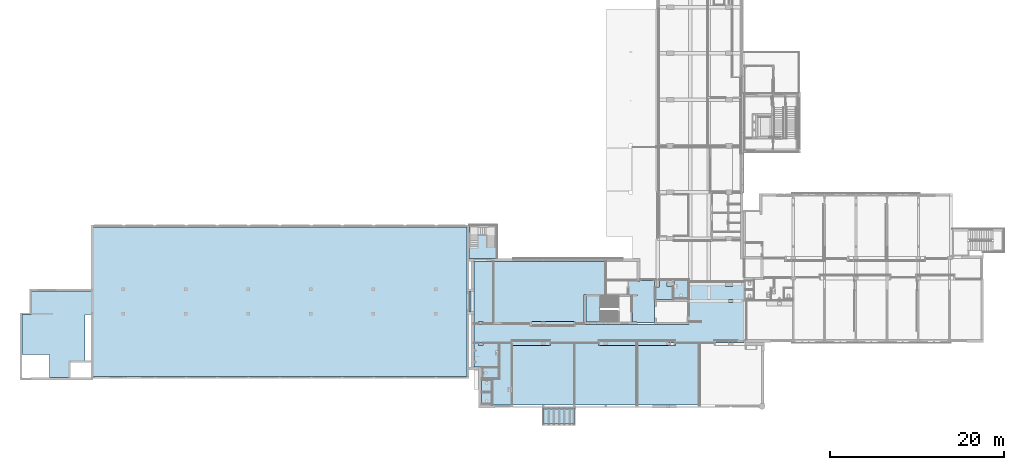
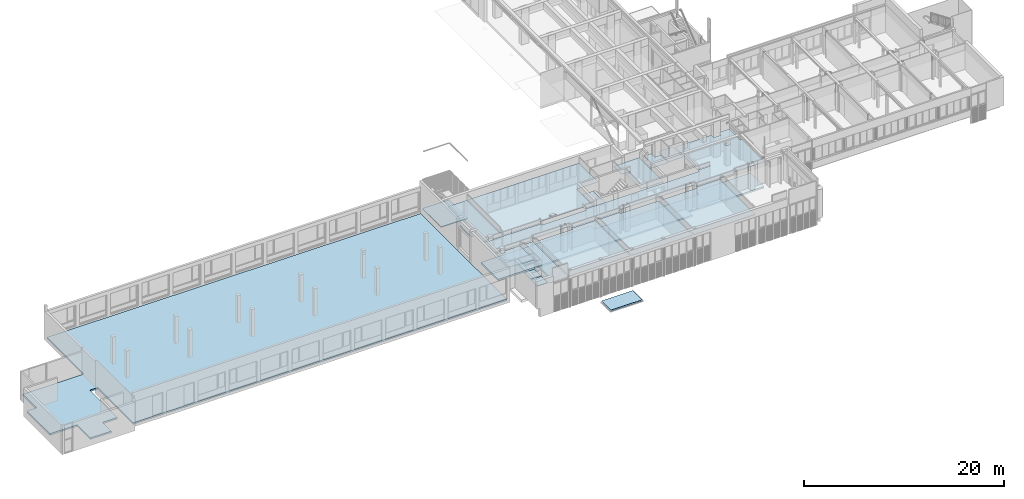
# One storey, part 31 of 117: 20 slabs.
"""IFC2X3 building model written with IfcOpenShell, lengths in millimetres."""

from ifc_helpers import new_model, entity, si_unit, converted_unit, derived_unit, money_unit, direction, frame, origin_with_axes, place, context, subcontext, project, spatial, faceted_brep, material, type_object, element, save


model = new_model("IFC2X3")

# Units and contexts
model_context = context("Model", 3, precision=0.01, world=origin_with_axes(), true_north=direction((0.0, 1.0)))
body_context = subcontext(model_context, "Body", "Model", "MODEL_VIEW")
ifc_project = project(units=[si_unit("LENGTHUNIT", "METRE", prefix="MILLI"), si_unit("AREAUNIT", "SQUARE_METRE"), si_unit("VOLUMEUNIT", "CUBIC_METRE"), converted_unit("PLANEANGLEUNIT", "DEGREE", entity("IfcPlaneAngleMeasure", 0.0174532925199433), si_unit("PLANEANGLEUNIT", "RADIAN"), dimensions=[0, 0, 0, 0, 0, 0, 0]), money_unit("EUR"), converted_unit("TIMEUNIT", "Year", entity("IfcTimeMeasure", 31557600.0), si_unit("TIMEUNIT", "SECOND"), dimensions=[0, 0, 1, 0, 0, 0, 0]), si_unit("MASSUNIT", "GRAM", prefix="KILO"), si_unit("THERMODYNAMICTEMPERATUREUNIT", "DEGREE_CELSIUS"), si_unit("LUMINOUSINTENSITYUNIT", "LUMEN"), si_unit("ENERGYUNIT", "JOULE", prefix="MEGA"), derived_unit("THERMALCONDUCTANCEUNIT", [(si_unit("POWERUNIT", "WATT"), 1), (si_unit("LENGTHUNIT", "METRE"), -1), (si_unit("THERMODYNAMICTEMPERATUREUNIT", "KELVIN"), -1)]), derived_unit("SPECIFICHEATCAPACITYUNIT", [(si_unit("ENERGYUNIT", "JOULE"), 1), (si_unit("MASSUNIT", "GRAM", prefix="KILO"), -1), (si_unit("THERMODYNAMICTEMPERATUREUNIT", "KELVIN"), -1)]), derived_unit("MASSDENSITYUNIT", [(si_unit("MASSUNIT", "GRAM", prefix="KILO"), 1), (si_unit("VOLUMEUNIT", "CUBIC_METRE"), -1)])], contexts=[model_context])

# Site, building, storey
site_placement = place(None, origin_with_axes())
site = spatial("IfcSite", under=ifc_project, at=site_placement, Name="Site", CompositionType="ELEMENT")
building_placement = place(site_placement, origin_with_axes())
building = spatial("IfcBuilding", under=site, at=building_placement, Name="Naam gebouw", CompositionType="ELEMENT")
storey_placement = place(building_placement, frame((0.0, 0.0, 4150.0), z_axis=(0.0, 0.0, 1.0), x_axis=(1.0, 0.0, 0.0)))
storey = spatial("IfcBuildingStorey", under=building, at=storey_placement, Name="1e verdieping N", CompositionType="ELEMENT", Elevation=4150.0)

# Slabs
ifc_material_1 = material(Name="ALG - CONSTRUCTIEF VLOER")
slab_type_1 = type_object("IfcSlabType", Name="ALG Vloer 200", PredefinedType="NOTDEFINED")
slab_1_placement = place(storey_placement, frame((12155.50051848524, 12994.60803964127, 1750.0), z_axis=(0.0, 0.0, 1.0), x_axis=(1.0, 0.0, 0.0)))
element("IfcSlab", 1, at=slab_1_placement, inside=storey, type_object=slab_type_1, material=ifc_material_1, Name="_Vloer-x", PredefinedType="NOTDEFINED", context=body_context, shape_type="Brep", body=[
    faceted_brep([(0.0, 0.0, 0.0), (0.0, 0.0, -200.0000000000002), (1643.100000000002, 0.0, -200.0000000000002), (1643.100000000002, 0.0, 0.0), (0.0, 3001.31222034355, 0.0), (0.0, 3001.31222034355, -200.0000000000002), (1514.999999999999, 3001.31222034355, -200.0000000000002), (1514.999999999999, 1280.000000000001, -200.0000000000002), (1643.100000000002, 1280.000000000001, -200.0000000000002), (1643.100000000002, 1280.000000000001, 0.0), (1514.999999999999, 1280.000000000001, 0.0), (1514.999999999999, 3001.31222034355, 0.0)], [[[0, 1, 2, 3]], [[4, 5, 1, 0]], [[2, 1, 5, 6, 7, 8]], [[3, 2, 8, 9]], [[4, 0, 3, 9, 10, 11]], [[11, 6, 5, 4]], [[10, 7, 6, 11]], [[9, 8, 7, 10]]]),
])
slab_2_placement = place(storey_placement, frame((-44649.99999999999, 6765.575024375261, -479.9999999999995), z_axis=(0.0, 0.0, 1.0), x_axis=(1.0, 0.0, 0.0)))
element("IfcSlab", 2, at=slab_2_placement, inside=storey, type_object=slab_type_1, material=ifc_material_1, Name="_Vloer-x", PredefinedType="NOTDEFINED", context=body_context, shape_type="Brep", body=[
    faceted_brep([(0.0, 0.0, 0.0), (0.0, 0.0, -200.0000000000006), (43050.00000002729, 0.01660980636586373, -200.0000000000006), (43050.00000002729, 0.01660980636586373, 0.0), (0.0, 7100.000000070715, 0.0), (0.0, 7100.000000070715, -200.0000000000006), (-899.9999999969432, 7099.999999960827, -200.0000000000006), (-899.9999991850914, 1599.930119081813, -200.0000000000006), (-2599.999999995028, 1599.93011899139, -200.0000000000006), (-2599.999999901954, -149.9999999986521, -200.0000000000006), (-5013.736795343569, -150.0000000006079, -200.0000000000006), (-5013.736795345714, 2500.00000000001, -200.0000000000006), (-8149.999999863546, 2499.999999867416, -200.0000000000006), (-8150.000000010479, 7099.999999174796, -200.0000000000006), (-7049.999999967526, 7099.999999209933, -200.0000000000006), (-7050.000000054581, 9824.999999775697, -200.0000000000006), (-8.624567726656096e-08, 9825.00000000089, -200.0000000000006), (-1.513171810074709e-07, 17199.99999999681, -200.0000000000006), (43050.00000002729, 17199.99999999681, -200.0000000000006), (43050.00000002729, 17199.99999999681, 0.0), (-1.513171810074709e-07, 17199.99999999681, 0.0), (-8.624567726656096e-08, 9825.00000000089, 0.0), (-7050.000000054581, 9824.999999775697, 0.0), (-7049.999999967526, 7099.999999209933, 0.0), (-8150.000000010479, 7099.999999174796, 0.0), (-8149.999999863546, 2499.999999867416, 0.0), (-5013.736795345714, 2500.00000000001, 0.0), (-5013.736795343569, -150.0000000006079, 0.0), (-2599.999999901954, -149.9999999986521, 0.0), (-2599.999999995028, 1599.93011899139, 0.0), (-899.9999991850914, 1599.930119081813, 0.0), (-899.9999999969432, 7099.999999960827, 0.0)], [[[0, 1, 2, 3]], [[4, 5, 1, 0]], [[2, 1, 5, 6, 7, 8, 9, 10, 11, 12, 13, 14, 15, 16, 17, 18]], [[3, 2, 18, 19]], [[4, 0, 3, 19, 20, 21, 22, 23, 24, 25, 26, 27, 28, 29, 30, 31]], [[31, 6, 5, 4]], [[30, 7, 6, 31]], [[29, 8, 7, 30]], [[28, 9, 8, 29]], [[27, 10, 9, 28]], [[26, 11, 10, 27]], [[25, 12, 11, 26]], [[24, 13, 12, 25]], [[23, 14, 13, 24]], [[22, 15, 14, 23]], [[21, 16, 15, 22]], [[20, 17, 16, 21]], [[19, 18, 17, 20]]]),
])
slab_type_2 = type_object("IfcSlabType", Name="ALG - CONSTRUCTIEF VLOER 200", PredefinedType="NOTDEFINED")
slab_3_placement = place(storey_placement, frame((-770.0388143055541, 9945.912425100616, -299.9999999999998), z_axis=(0.0, 0.0, 1.0), x_axis=(1.0, 0.0, 0.0)))
element("IfcSlab", 3, at=slab_3_placement, inside=storey, type_object=slab_type_2, material=ifc_material_1, Name="_Vloer-x", PredefinedType="NOTDEFINED", context=body_context, shape_type="Brep", body=[
    faceted_brep([(0.0, 0.0, 0.0), (0.0, 0.0, -200.0000000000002), (22390.03881430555, 0.0, -200.0000000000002), (22390.03881430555, 0.0, 0.0), (0.0, 3450.000000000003, 0.0), (0.0, 3450.000000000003, -200.0000000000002), (12675.53933279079, 3450.000000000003, -200.0000000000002), (12675.53933279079, 2798.695614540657, -200.0000000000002), (24773.03881430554, 2798.695614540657, -200.0000000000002), (24773.03881430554, 3450.000000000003, -200.0000000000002), (31077.03881430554, 3450.000000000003, -200.0000000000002), (31077.03881430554, 714.9999999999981, -200.0000000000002), (22390.03881430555, 714.9999999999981, -200.0000000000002), (22390.03881430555, 714.9999999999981, 0.0), (31077.03881430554, 714.9999999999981, 0.0), (31077.03881430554, 3450.000000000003, 0.0), (24773.03881430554, 3450.000000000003, 0.0), (24773.03881430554, 2798.695614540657, 0.0), (12675.53933279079, 2798.695614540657, 0.0), (12675.53933279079, 3450.000000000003, 0.0)], [[[0, 1, 2, 3]], [[4, 5, 1, 0]], [[2, 1, 5, 6, 7, 8, 9, 10, 11, 12]], [[3, 2, 12, 13]], [[4, 0, 3, 13, 14, 15, 16, 17, 18, 19]], [[19, 6, 5, 4]], [[18, 7, 6, 19]], [[17, 8, 7, 18]], [[16, 9, 8, 17]], [[15, 10, 9, 16]], [[14, 11, 10, 15]], [[13, 12, 11, 14]]]),
])
ifc_material_2 = material(Name="ALG - BINNENAFWERKING")
slab_type_3 = type_object("IfcSlabType", Name="ALG - BINNENAFWERKING 40", PredefinedType="NOTDEFINED")
slab_4_placement = place(storey_placement, frame((-770.0761052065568, 10650.91242510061, 2450.0), z_axis=(0.0, 0.0, 1.0), x_axis=(1.0, 0.0, 0.0)))
element("IfcSlab", 4, at=slab_4_placement, inside=storey, type_object=slab_type_3, material=ifc_material_2, Name="_Vloer-x", PredefinedType="NOTDEFINED", context=body_context, shape_type="Brep", body=[
    faceted_brep([(14900.07610520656, 2090.000000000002, 0.0), (15440.07610520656, 2090.000000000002, 0.0), (15440.07610520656, 2093.695614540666, 0.0), (24773.07610520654, 2093.695614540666, 0.0), (24773.07610520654, 2350.000000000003, 0.0), (26196.62402900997, 2350.000000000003, 0.0), (26196.62402900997, 2450.000000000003, 0.0), (24773.07610520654, 2450.000000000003, 0.0), (24773.07610520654, 6965.000000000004, 0.0), (28976.07610520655, 6965.000000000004, 0.0), (28976.07610520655, 6465.000000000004, 0.0), (29776.07610520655, 6465.000000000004, 0.0), (29776.07610520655, 6965.000000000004, 0.0), (31077.07610520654, 6965.000000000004, 0.0), (31077.07610520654, 4790.000000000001, 0.0), (31327.07610520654, 4790.000000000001, 0.0), (31327.07610520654, 339.9999999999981, 0.0), (31077.07610520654, 339.9999999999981, 0.0), (31077.07610520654, 255.0000000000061, 0.0), (27670.07610520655, 255.0000000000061, 0.0), (27670.07610520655, 4.999999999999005, 0.0), (23185.07610520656, 4.999999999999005, 0.0), (23185.07610520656, 254.999999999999, 0.0), (14355.07610520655, 255.0000000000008, 0.0), (14355.07610520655, 4.999999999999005, 0.0), (8785.07610520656, 4.999999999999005, 0.0), (8785.07610520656, 254.999999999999, 0.0), (4320.076105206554, 254.999999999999, 0.0), (4320.076105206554, 0.0, 0.0), (1020.076105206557, 0.0, 0.0), (1020.076105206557, 22.49999999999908, 0.0), (520.0761052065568, 22.49999999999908, 0.0), (520.0761052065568, 0.0, 0.0), (0.0, 0.0, 0.0), (0.0, 2124.943932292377, 0.0), (520.0761052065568, 2124.943932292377, 0.0), (520.0761052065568, 2067.500000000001, 0.0), (1020.076105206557, 2067.500000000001, 0.0), (1020.076105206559, 2124.943932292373, 0.0), (6544.575586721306, 2124.943932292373, 0.0), (6544.575586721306, 1874.943932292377, 0.0), (11620.07610520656, 1874.943932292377, 0.0), (11620.07610520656, 2124.943932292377, 0.0), (12675.57662369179, 2124.943932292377, 0.0), (12675.57662369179, 2093.695614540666, 0.0), (14900.07610520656, 2093.695614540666, 0.0), (29320.07610520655, 4957.500000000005, 0.0), (29320.07610520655, 4602.500000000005, 0.0), (29820.07610520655, 4602.500000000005, 0.0), (29820.07610520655, 4957.500000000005, 0.0), (14900.07610520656, 2090.000000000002, 40.00000000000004), (15440.07610520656, 2090.000000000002, 40.00000000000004), (15440.07610520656, 2093.695614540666, 40.00000000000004), (24773.07610520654, 2093.695614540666, 40.00000000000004), (24773.07610520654, 2350.000000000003, 40.00000000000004), (26196.62402900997, 2350.000000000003, 40.00000000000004), (26196.62402900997, 2450.000000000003, 40.00000000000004), (24773.07610520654, 2450.000000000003, 40.00000000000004), (24773.07610520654, 6965.000000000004, 40.00000000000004), (28976.07610520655, 6965.000000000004, 40.00000000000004), (28976.07610520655, 6465.000000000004, 40.00000000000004), (29776.07610520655, 6465.000000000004, 40.00000000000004), (29776.07610520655, 6965.000000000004, 40.00000000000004), (31077.07610520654, 6965.000000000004, 40.00000000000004), (31077.07610520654, 4790.000000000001, 40.00000000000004), (31327.07610520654, 4790.000000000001, 40.00000000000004), (31327.07610520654, 339.9999999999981, 40.00000000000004), (31077.07610520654, 339.9999999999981, 40.00000000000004), (31077.07610520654, 255.0000000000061, 40.00000000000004), (27670.07610520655, 255.0000000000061, 40.00000000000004), (27670.07610520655, 4.999999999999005, 40.00000000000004), (23185.07610520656, 4.999999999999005, 40.00000000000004), (23185.07610520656, 254.999999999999, 40.00000000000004), (14355.07610520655, 255.0000000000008, 40.00000000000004), (14355.07610520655, 4.999999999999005, 40.00000000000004), (8785.07610520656, 4.999999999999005, 40.00000000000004), (8785.07610520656, 254.999999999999, 40.00000000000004), (4320.076105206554, 254.999999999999, 40.00000000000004), (4320.076105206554, 0.0, 40.00000000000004), (1020.076105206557, 0.0, 40.00000000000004), (1020.076105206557, 22.49999999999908, 40.00000000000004), (520.0761052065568, 22.49999999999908, 40.00000000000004), (520.0761052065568, 0.0, 40.00000000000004), (0.0, 0.0, 40.00000000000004), (0.0, 2124.943932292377, 40.00000000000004), (520.0761052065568, 2124.943932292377, 40.00000000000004), (520.0761052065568, 2067.500000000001, 40.00000000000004), (1020.076105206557, 2067.500000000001, 40.00000000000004), (1020.076105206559, 2124.943932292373, 40.00000000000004), (6544.575586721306, 2124.943932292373, 40.00000000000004), (6544.575586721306, 1874.943932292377, 40.00000000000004), (11620.07610520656, 1874.943932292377, 40.00000000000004), (11620.07610520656, 2124.943932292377, 40.00000000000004), (12675.57662369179, 2124.943932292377, 40.00000000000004), (12675.57662369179, 2093.695614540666, 40.00000000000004), (14900.07610520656, 2093.695614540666, 40.00000000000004), (29320.07610520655, 4957.500000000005, 40.00000000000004), (29320.07610520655, 4602.500000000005, 40.00000000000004), (29820.07610520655, 4602.500000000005, 40.00000000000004), (29820.07610520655, 4957.500000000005, 40.00000000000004)], [[[0, 1, 2, 3, 4, 5, 6, 7, 8, 9, 10, 11, 12, 13, 14, 15, 16, 17, 18, 19, 20, 21, 22, 23, 24, 25, 26, 27, 28, 29, 30, 31, 32, 33, 34, 35, 36, 37, 38, 39, 40, 41, 42, 43, 44, 45], [46, 47, 48, 49]], [[0, 50, 51, 1]], [[1, 51, 52, 2]], [[3, 2, 52, 53]], [[3, 53, 54, 4]], [[4, 54, 55, 5]], [[5, 55, 56, 6]], [[6, 56, 57, 7]], [[7, 57, 58, 8]], [[9, 8, 58, 59]], [[60, 10, 9, 59]], [[10, 60, 61, 11]], [[11, 61, 62, 12]], [[12, 62, 63, 13]], [[13, 63, 64, 14]], [[14, 64, 65, 15]], [[15, 65, 66, 16]], [[16, 66, 67, 17]], [[17, 67, 68, 18]], [[18, 68, 69, 19]], [[19, 69, 70, 20]], [[20, 70, 71, 21]], [[21, 71, 72, 22]], [[22, 72, 73, 23]], [[23, 73, 74, 24]], [[24, 74, 75, 25]], [[25, 75, 76, 26]], [[26, 76, 77, 27]], [[27, 77, 78, 28]], [[28, 78, 79, 29]], [[29, 79, 80, 30]], [[30, 80, 81, 31]], [[31, 81, 82, 32]], [[32, 82, 83, 33]], [[33, 83, 84, 34]], [[34, 84, 85, 35]], [[35, 85, 86, 36]], [[36, 86, 87, 37]], [[37, 87, 88, 38]], [[38, 88, 89, 39]], [[39, 89, 90, 40]], [[40, 90, 91, 41]], [[41, 91, 92, 42]], [[42, 92, 93, 43]], [[43, 93, 94, 44]], [[94, 95, 45, 44]], [[0, 45, 95, 50]], [[46, 96, 97, 47]], [[47, 97, 98, 48]], [[48, 98, 99, 49]], [[49, 99, 96, 46]], [[51, 50, 95, 94, 93, 92, 91, 90, 89, 88, 87, 86, 85, 84, 83, 82, 81, 80, 79, 78, 77, 76, 75, 74, 73, 72, 71, 70, 69, 68, 67, 66, 65, 64, 63, 62, 61, 60, 59, 58, 57, 56, 55, 54, 53, 52], [98, 97, 96, 99]]]),
])
slab_5_placement = place(storey_placement, frame((1529.923894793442, 12875.85635739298, 2450.0), z_axis=(0.0, 0.0, 1.0), x_axis=(1.0, 0.0, 0.0)))
element("IfcSlab", 5, at=slab_5_placement, inside=storey, type_object=slab_type_3, material=ifc_material_2, Name="_Vloer-x", PredefinedType="NOTDEFINED", context=body_context, shape_type="Brep", body=[
    faceted_brep([(9320.076105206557, 225.0055161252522, 40.00000000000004), (9320.076105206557, 0.0, 40.00000000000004), (10375.57662369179, 0.0, 40.00000000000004), (10375.57662369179, 3320.063902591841, 40.00000000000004), (12820.07610520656, 3320.063902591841, 40.00000000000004), (12820.07610520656, 7119.959839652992, 40.00000000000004), (0.0, 7119.959839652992, 40.00000000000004), (0.0, 0.0, 40.00000000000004), (4244.575586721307, 0.0, 40.00000000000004), (4244.575586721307, 225.0055161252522, 40.00000000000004), (9320.076105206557, 225.0055161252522, 0.0), (9320.076105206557, 0.0, 0.0), (10375.57662369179, 0.0, 0.0), (10375.57662369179, 3320.063902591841, 0.0), (12820.07610520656, 3320.063902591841, 0.0), (12820.07610520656, 7119.959839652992, 0.0), (0.0, 7119.959839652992, 0.0), (0.0, 0.0, 0.0), (4244.575586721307, 0.0, 0.0), (4244.575586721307, 225.0055161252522, 0.0)], [[[0, 1, 2, 3, 4, 5, 6, 7, 8, 9]], [[10, 11, 1, 0]], [[11, 12, 2, 1]], [[3, 2, 12, 13]], [[4, 3, 13, 14]], [[5, 4, 14, 15]], [[6, 5, 15, 16]], [[7, 6, 16, 17]], [[8, 7, 17, 18]], [[9, 8, 18, 19]], [[0, 9, 19, 10]], [[13, 12, 11, 10, 19, 18, 17, 16, 15, 14]]]),
])
slab_6_placement = place(storey_placement, frame((10850.00400859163, 3445.733530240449, 2450.0), z_axis=(0.0, 0.0, 1.0), x_axis=(1.0, 0.0, 0.0)))
element("IfcSlab", 6, at=slab_6_placement, inside=storey, type_object=slab_type_3, material=ifc_material_2, Name="_Vloer-x", PredefinedType="NOTDEFINED", context=body_context, shape_type="Brep", body=[
    faceted_brep([(0.0, 0.0, 40.00000000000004), (0.0, 0.0, 0.0), (7074.995991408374, -0.06482253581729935, 0.0), (7074.995991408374, -0.06482253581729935, 40.00000000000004), (0.0, 7110.178894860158, 40.00000000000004), (0.0, 7110.178894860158, 0.0), (2734.995991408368, 7110.178894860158, 0.0), (2734.995991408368, 6885.178894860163, 0.0), (7074.995991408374, 6885.178894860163, 0.0), (7074.995991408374, 6885.178894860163, 40.00000000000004), (2734.995991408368, 6885.178894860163, 40.00000000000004), (2734.995991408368, 7110.178894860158, 40.00000000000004)], [[[0, 1, 2, 3]], [[4, 5, 1, 0]], [[2, 1, 5, 6, 7, 8]], [[3, 2, 8, 9]], [[4, 0, 3, 9, 10, 11]], [[11, 6, 5, 4]], [[10, 7, 6, 11]], [[9, 8, 7, 10]]]),
])
slab_7_placement = place(storey_placement, frame((18075.0, 3445.668707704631, 2450.0), z_axis=(0.0, 0.0, 1.0), x_axis=(1.0, 0.0, 0.0)))
element("IfcSlab", 7, at=slab_7_placement, inside=storey, type_object=slab_type_3, material=ifc_material_2, Name="_Vloer-x", PredefinedType="NOTDEFINED", context=body_context, shape_type="Brep", body=[
    faceted_brep([(0.0, 0.0, 40.00000000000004), (0.0, 0.0, 0.0), (7049.999999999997, 0.0, 0.0), (7049.999999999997, 0.0, 40.00000000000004), (0.0, 6885.243717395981, 40.00000000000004), (0.0, 6885.243717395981, 0.0), (4340.000000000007, 6885.243717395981, 0.0), (4340.000000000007, 7110.243717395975, 0.0), (7049.999999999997, 7110.243717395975, 0.0), (7049.999999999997, 7110.243717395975, 40.00000000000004), (4340.000000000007, 7110.243717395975, 40.00000000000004), (4340.000000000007, 6885.243717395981, 40.00000000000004)], [[[0, 1, 2, 3]], [[4, 5, 1, 0]], [[2, 1, 5, 6, 7, 8]], [[3, 2, 8, 9]], [[4, 0, 3, 9, 10, 11]], [[11, 6, 5, 4]], [[10, 7, 6, 11]], [[9, 8, 7, 10]]]),
])
slab_8_placement = place(storey_placement, frame((3649.999999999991, 3445.668707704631, 2450.0), z_axis=(0.0, 0.0, 1.0), x_axis=(1.0, 0.0, 0.0)))
element("IfcSlab", 8, at=slab_8_placement, inside=storey, type_object=slab_type_3, material=ifc_material_2, Name="_Vloer-x", PredefinedType="NOTDEFINED", context=body_context, shape_type="Brep", body=[
    faceted_brep([(7100.00400859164, 0.06479576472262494, 40.00000000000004), (0.0, 0.0, 40.00000000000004), (0.0, 0.0, 0.0), (7100.00400859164, 0.06479576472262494, 0.0), (4365.000000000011, 6885.243717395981, 40.00000000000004), (0.0, 6885.243717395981, 40.00000000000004), (7100.000000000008, 7110.243717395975, 40.00000000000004), (4365.000000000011, 7110.243717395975, 40.00000000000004), (0.0, 6885.243717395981, 0.0), (7100.000000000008, 7110.243717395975, 0.0), (4365.000000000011, 6885.243717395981, 0.0), (4365.000000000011, 7110.243717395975, 0.0)], [[[0, 1, 2, 3]], [[4, 5, 1, 0, 6, 7]], [[1, 5, 8, 2]], [[9, 3, 2, 8, 10, 11]], [[6, 0, 3, 9]], [[5, 4, 10, 8]], [[7, 6, 9, 11]], [[4, 7, 11, 10]]]),
])
slab_9_placement = place(storey_placement, frame((1300.000044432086, 6295.658971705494, 2400.0), z_axis=(0.0, 0.0, 1.0), x_axis=(1.0, 0.0, 0.0)))
element("IfcSlab", 9, at=slab_9_placement, inside=storey, type_object=slab_type_3, material=ifc_material_2, Name="_Vloer-x", PredefinedType="NOTDEFINED", context=body_context, shape_type="Brep", body=[
    faceted_brep([(0.0, 0.0, 39.99999999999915), (0.0, 0.0, 0.0), (-1199.999996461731, 0.0, 0.0), (-1199.999996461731, 0.0, 39.99999999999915), (0.0, -1300.878859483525, 39.99999999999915), (0.0, -1300.878859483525, 0.0), (-1199.999996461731, -1300.878859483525, 0.0), (-1199.999996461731, -1300.878859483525, 39.99999999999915)], [[[0, 1, 2, 3]], [[4, 5, 1, 0]], [[2, 1, 5, 6]], [[3, 2, 6, 7]], [[4, 0, 3, 7]], [[7, 6, 5, 4]]]),
])
slab_10_placement = place(storey_placement, frame((1300.000043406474, 4894.78011222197, 2400.0), z_axis=(0.0, 0.0, 1.0), x_axis=(1.0, 0.0, 0.0)))
element("IfcSlab", 10, at=slab_10_placement, inside=storey, type_object=slab_type_3, material=ifc_material_2, Name="_Vloer-x", PredefinedType="NOTDEFINED", context=body_context, shape_type="Brep", body=[
    faceted_brep([(0.0, 0.0, 39.99999999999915), (0.0, 0.0, 0.0), (-1199.999995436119, 0.0, 0.0), (-1199.999995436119, 0.0, 39.99999999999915), (0.0, -1299.111404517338, 39.99999999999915), (0.0, -1299.111404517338, 0.0), (-1199.999995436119, -1299.111404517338, 0.0), (-1199.999995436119, -1299.111404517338, 39.99999999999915)], [[[0, 1, 2, 3]], [[4, 5, 1, 0]], [[2, 1, 5, 6]], [[3, 2, 6, 7]], [[4, 0, 3, 7]], [[7, 6, 5, 4]]]),
])
slab_11_placement = place(storey_placement, frame((2099.999999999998, 7735.77984600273, 2400.0), z_axis=(0.0, 0.0, 1.0), x_axis=(1.0, 0.0, 0.0)))
element("IfcSlab", 11, at=slab_11_placement, inside=storey, type_object=slab_type_3, material=ifc_material_2, Name="_Vloer-x", PredefinedType="NOTDEFINED", context=body_context, shape_type="Brep", body=[
    faceted_brep([(0.0, 0.0, 39.99999999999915), (0.0, 0.0, 0.0), (-1849.999952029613, 0.0, 0.0), (-1849.999952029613, 0.0, 39.99999999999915), (0.0, -1190.120874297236, 39.99999999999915), (0.0, -1190.120874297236, 0.0), (-1849.999952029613, -1190.120874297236, 0.0), (-1849.999952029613, -1190.120874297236, 39.99999999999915)], [[[0, 1, 2, 3]], [[4, 5, 1, 0]], [[2, 1, 5, 6]], [[3, 2, 6, 7]], [[4, 0, 3, 7]], [[7, 6, 5, 4]]]),
])
slab_12_placement = place(storey_placement, frame((-770.0761052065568, 10550.91242510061, 2400.0), z_axis=(0.0, 0.0, 1.0), x_axis=(1.0, 0.0, 0.0)))
element("IfcSlab", 12, at=slab_12_placement, inside=storey, type_object=slab_type_3, material=ifc_material_2, Name="_Vloer-x", PredefinedType="NOTDEFINED", context=body_context, shape_type="Brep", body=[
    faceted_brep([(0.0, 0.0, 39.99999999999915), (0.0, 0.0, 0.0), (0.0, -2715.132582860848, 0.0), (0.0, -2715.132582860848, 39.99999999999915), (520.0761289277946, 1.959759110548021e-05, 39.99999999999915), (520.0761289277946, 1.959759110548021e-05, 0.0), (520.0761052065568, -232.5000000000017, 0.0), (1020.076105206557, -232.5000000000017, 0.0), (1020.076105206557, 1.959759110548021e-05, 0.0), (2870.076105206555, 1.959759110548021e-05, 0.0), (2870.076105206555, -2715.132582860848, 0.0), (2870.076105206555, -2715.132582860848, 39.99999999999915), (2870.076105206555, 1.959759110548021e-05, 39.99999999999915), (1020.076105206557, 1.959759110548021e-05, 39.99999999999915), (1020.076105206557, -232.5000000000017, 39.99999999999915), (520.0761052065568, -232.5000000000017, 39.99999999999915)], [[[0, 1, 2, 3]], [[4, 5, 1, 0]], [[2, 1, 5, 6, 7, 8, 9, 10]], [[3, 2, 10, 11]], [[4, 0, 3, 11, 12, 13, 14, 15]], [[15, 6, 5, 4]], [[14, 7, 6, 15]], [[13, 8, 7, 14]], [[12, 9, 8, 13]], [[11, 10, 9, 12]]]),
])
slab_13_placement = place(storey_placement, frame((1400.000047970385, 3445.668707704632, 2400.0), z_axis=(0.0, 0.0, 1.0), x_axis=(1.0, 0.0, 0.0)))
element("IfcSlab", 13, at=slab_13_placement, inside=storey, type_object=slab_type_3, material=ifc_material_2, Name="_Vloer-x", PredefinedType="NOTDEFINED", context=body_context, shape_type="Brep", body=[
    faceted_brep([(0.0, 0.0, 39.99999999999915), (0.0, 0.0, 0.0), (2149.999952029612, 0.0, 0.0), (2149.999952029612, 0.0, 39.99999999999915), (0.0, 2999.990264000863, 39.99999999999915), (0.0, 2999.990264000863, 0.0), (799.999952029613, 2999.990264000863, 0.0), (799.9999520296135, 7105.243717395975, 0.0), (2149.999952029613, 7105.243717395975, 0.0), (2149.999952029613, 7105.243717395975, 39.99999999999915), (799.9999520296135, 7105.243717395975, 39.99999999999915), (799.999952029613, 2999.990264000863, 39.99999999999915)], [[[0, 1, 2, 3]], [[4, 5, 1, 0]], [[2, 1, 5, 6, 7, 8]], [[3, 2, 8, 9]], [[4, 0, 3, 9, 10, 11]], [[11, 6, 5, 4]], [[10, 7, 6, 11]], [[9, 8, 7, 10]]]),
])
slab_14_placement = place(storey_placement, frame((20140.99999999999, 15606.60803964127, 2450.0), z_axis=(0.0, 0.0, 1.0), x_axis=(1.0, 0.0, 0.0)))
element("IfcSlab", 14, at=slab_14_placement, inside=storey, type_object=slab_type_3, material=ifc_material_2, Name="_Vloer-x", PredefinedType="NOTDEFINED", context=body_context, shape_type="Brep", body=[
    faceted_brep([(0.0, 0.0, 40.00000000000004), (0.0, 0.0, 0.0), (1995.000000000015, 0.0, 0.0), (1995.000000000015, 0.0, 40.00000000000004), (0.0, 1432.846269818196, 40.00000000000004), (0.0, 1432.846269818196, 0.0), (449.9999999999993, 1432.846269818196, 0.0), (449.9999999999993, 2218.143186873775, 0.0), (1295.00000000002, 2218.143186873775, 0.0), (1295.00000000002, 1509.304385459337, 0.0), (1995.000000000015, 1509.304385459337, 0.0), (1995.000000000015, 1509.304385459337, 40.00000000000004), (1295.00000000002, 1509.304385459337, 40.00000000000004), (1295.00000000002, 2218.143186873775, 40.00000000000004), (449.9999999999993, 2218.143186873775, 40.00000000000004), (449.9999999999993, 1432.846269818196, 40.00000000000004)], [[[0, 1, 2, 3]], [[4, 5, 1, 0]], [[2, 1, 5, 6, 7, 8, 9, 10]], [[3, 2, 10, 11]], [[4, 0, 3, 11, 12, 13, 14, 15]], [[15, 6, 5, 4]], [[14, 7, 6, 15]], [[13, 8, 7, 14]], [[12, 9, 8, 13]], [[11, 10, 9, 12]]]),
])
slab_15_placement = place(storey_placement, frame((17037.79224075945, 17756.42312797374, 2450.0), z_axis=(0.0, 0.0, 1.0), x_axis=(1.0, 0.0, 0.0)))
element("IfcSlab", 15, at=slab_15_placement, inside=storey, type_object=slab_type_3, material=ifc_material_2, Name="_Vloer-x", PredefinedType="NOTDEFINED", context=body_context, shape_type="Brep", body=[
    faceted_brep([(0.0, 0.0, 40.00000000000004), (0.0, 0.0, 0.0), (0.0, -1560.50288160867, 0.0), (0.0, -1560.50288160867, 40.00000000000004), (1292.207794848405, 0.0, 40.00000000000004), (1292.207794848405, 0.0, 0.0), (1292.207794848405, 68.32809854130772, 0.0), (3003.207791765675, 68.32809854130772, 0.0), (3003.207791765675, -4811.815088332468, 0.0), (963.2119785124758, -4811.815088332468, 0.0), (963.4630075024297, -4761.821414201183, 0.0), (910.2060292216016, -4761.554023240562, 0.0), (910.2746040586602, -4761.815087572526, 0.0), (417.7083124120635, -4761.815087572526, 0.0), (417.7083124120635, -1760.502884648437, 0.0), (962.2077898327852, -1760.502884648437, 0.0), (962.2077898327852, -1560.50288160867, 0.0), (962.2077898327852, -1560.50288160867, 40.00000000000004), (962.2077898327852, -1760.502884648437, 40.00000000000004), (417.7083124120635, -1760.502884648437, 40.00000000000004), (417.7083124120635, -4761.815087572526, 40.00000000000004), (910.2746040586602, -4761.815087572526, 40.00000000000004), (910.2060292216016, -4761.554023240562, 40.00000000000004), (963.4630075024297, -4761.821414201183, 40.00000000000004), (963.2119785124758, -4811.815088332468, 40.00000000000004), (3003.207791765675, -4811.815088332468, 40.00000000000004), (3003.207791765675, 68.32809854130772, 40.00000000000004), (1292.207794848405, 68.32809854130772, 40.00000000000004)], [[[0, 1, 2, 3]], [[4, 5, 1, 0]], [[2, 1, 5, 6, 7, 8, 9, 10, 11, 12, 13, 14, 15, 16]], [[3, 2, 16, 17]], [[4, 0, 3, 17, 18, 19, 20, 21, 22, 23, 24, 25, 26, 27]], [[27, 6, 5, 4]], [[26, 7, 6, 27]], [[25, 8, 7, 26]], [[24, 9, 8, 25]], [[23, 10, 9, 24]], [[22, 11, 10, 23]], [[21, 12, 11, 22]], [[20, 13, 12, 21]], [[19, 14, 13, 20]], [[18, 15, 14, 19]], [[17, 16, 15, 18]]]),
])
slab_16_placement = place(storey_placement, frame((-770.0761052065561, 12875.85635739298, 2450.0), z_axis=(0.0, 0.0, 1.0), x_axis=(1.0, 0.0, 0.0)))
element("IfcSlab", 16, at=slab_16_placement, inside=storey, type_object=slab_type_3, material=ifc_material_2, Name="_Vloer-x", PredefinedType="NOTDEFINED", context=body_context, shape_type="Brep", body=[
    faceted_brep([(-579.9238947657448, 1339.718666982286, 40.00000000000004), (-330.0000000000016, 1339.718666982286, 40.00000000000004), (-330.0000000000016, 3639.735373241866, 40.00000000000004), (-579.9238947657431, 3639.735373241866, 40.00000000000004), (-579.9238947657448, 1339.718666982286, 0.0), (-330.0000000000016, 1339.718666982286, 0.0), (-330.0000000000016, 3639.735373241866, 0.0), (-579.9238947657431, 3639.735373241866, 0.0)], [[[0, 1, 2, 3]], [[4, 5, 1, 0]], [[5, 6, 2, 1]], [[3, 2, 6, 7]], [[7, 4, 0, 3]], [[7, 6, 5, 4]]]),
    faceted_brep([(0.0, 7119.970006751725, 0.0), (0.0, 3639.735373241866, 0.0), (0.0, 3639.735373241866, 40.00000000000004), (0.0, 7119.970006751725, 40.00000000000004), (0.0, 0.0, 0.0), (0.0, 1339.718666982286, 0.0), (2199.999999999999, 7119.959839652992, 0.0), (2199.999999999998, 0.0, 0.0), (1020.076105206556, 0.0, 0.0), (1020.076105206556, 197.5560677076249, 0.0), (520.0761052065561, 197.5560677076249, 0.0), (520.0761052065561, 0.0, 0.0), (0.0, 1339.718666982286, 40.00000000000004), (0.0, 0.0, 40.00000000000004), (520.0761052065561, 0.0, 40.00000000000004), (520.0761052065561, 197.5560677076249, 40.00000000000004), (1020.076105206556, 197.5560677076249, 40.00000000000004), (1020.076105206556, 0.0, 40.00000000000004), (2199.999999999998, 0.0, 40.00000000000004), (2199.999999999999, 7119.959839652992, 40.00000000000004)], [[[0, 1, 2, 3]], [[4, 5, 1, 0, 6, 7, 8, 9, 10, 11]], [[5, 12, 2, 1]], [[3, 2, 12, 13, 14, 15, 16, 17, 18, 19]], [[6, 0, 3, 19]], [[13, 12, 5, 4]], [[7, 6, 19, 18]], [[8, 7, 18, 17]], [[9, 8, 17, 16]], [[10, 9, 16, 15]], [[11, 10, 15, 14]], [[4, 11, 14, 13]]]),
])
slab_17_placement = place(storey_placement, frame((22236.0, 15756.60803964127, 2400.0), z_axis=(0.0, 0.0, 1.0), x_axis=(1.0, 0.0, 0.0)))
element("IfcSlab", 17, at=slab_17_placement, inside=storey, type_object=slab_type_3, material=ifc_material_2, Name="_Vloer-x", PredefinedType="NOTDEFINED", context=body_context, shape_type="Brep", body=[
    faceted_brep([(0.0, 0.0, 39.99999999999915), (0.0, 0.0, 0.0), (1666.99999999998, 0.0, 0.0), (1666.99999999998, 0.0, 39.99999999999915), (0.0, 2068.143211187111, 39.99999999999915), (0.0, 2068.143211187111, 0.0), (1666.99999999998, 2068.143211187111, 0.0), (1666.99999999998, 2068.143211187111, 39.99999999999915)], [[[0, 1, 2, 3]], [[4, 5, 1, 0]], [[2, 1, 5, 6]], [[3, 2, 6, 7]], [[4, 0, 3, 7]], [[7, 6, 5, 4]]]),
])
ifc_material_3 = material(Name="Gipsplaat")
slab_type_4 = type_object("IfcSlabType", Name="Gipsplaat 18", PredefinedType="NOTDEFINED")
slab_18_placement = place(storey_placement, frame((7202.449650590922, 1255.668707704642, -1740.0), z_axis=(0.0, 0.0, 1.0), x_axis=(1.0, 0.0, 0.0)))
element("IfcSlab", 18, at=slab_18_placement, inside=storey, type_object=slab_type_4, material=ifc_material_3, Name="_Vloer-x", PredefinedType="NOTDEFINED", context=body_context, shape_type="Brep", body=[
    faceted_brep([(0.0, 0.0, 18.00000000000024), (0.0, 0.0, 0.0), (3594.999999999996, 0.0, 0.0), (3594.999999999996, 0.0, 18.00000000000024), (0.0, 1710.000000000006, 18.00000000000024), (0.0, 1710.000000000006, 0.0), (3594.999999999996, 1710.000000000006, 0.0), (3594.999999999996, 1710.000000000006, 18.00000000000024)], [[[0, 1, 2, 3]], [[4, 5, 1, 0]], [[2, 1, 5, 6]], [[3, 2, 6, 7]], [[4, 0, 3, 7]], [[7, 6, 5, 4]]]),
])
ifc_material_4 = material(Name="Beton gewapend prefab vloer")
slab_type_5 = type_object("IfcSlabType", Name="Beton gewapend prefab vloer 100", PredefinedType="NOTDEFINED")
slab_19_placement = place(storey_placement, frame((-1349.999999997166, 20325.81619704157, 0.0), z_axis=(0.0, 0.0, 1.0), x_axis=(1.0, 0.0, 0.0)))
element("IfcSlab", 19, at=slab_19_placement, inside=storey, type_object=slab_type_5, material=ifc_material_4, Name="_Vloer-x", PredefinedType="NOTDEFINED", context=body_context, shape_type="Brep", body=[
    faceted_brep([(0.0, 0.0, 0.0), (0.0, 0.0, -99.99999999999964), (3089.999999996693, 0.0, -99.99999999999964), (3089.999999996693, 0.0, 0.0), (0.0, 3730.01359452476, 0.0), (0.0, 3730.01359452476, -99.99999999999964), (3089.999999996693, 3730.01359452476, -99.99999999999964), (3089.999999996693, 3730.01359452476, 0.0)], [[[0, 1, 2, 3]], [[4, 5, 1, 0]], [[2, 1, 5, 6]], [[3, 2, 6, 7]], [[4, 0, 3, 7]], [[7, 6, 5, 4]]]),
])
ifc_material_5 = material(Name="Hout - Multiplex")
slab_type_6 = type_object("IfcSlabType", Name="Hout - Multiplex 18", PredefinedType="NOTDEFINED")
slab_20_placement = place(storey_placement, frame((7207.449650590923, 1255.668707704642, -1584.0), z_axis=(0.0, 0.0, 1.0), x_axis=(1.0, 0.0, 0.0)))
element("IfcSlab", 20, at=slab_20_placement, inside=storey, type_object=slab_type_6, material=ifc_material_5, Name="_Vloer-x", PredefinedType="NOTDEFINED", context=body_context, shape_type="Brep", body=[
    faceted_brep([(0.0, 0.0, 17.99999999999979), (0.0, 0.0, 0.0), (3589.999999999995, 0.0, 0.0), (3589.999999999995, 0.0, 17.99999999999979), (0.0, 1859.999999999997, 17.99999999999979), (0.0, 1859.999999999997, 0.0), (3589.999999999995, 1859.999999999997, 0.0), (3589.999999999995, 1859.999999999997, 17.99999999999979)], [[[0, 1, 2, 3]], [[4, 5, 1, 0]], [[2, 1, 5, 6]], [[3, 2, 6, 7]], [[4, 0, 3, 7]], [[7, 6, 5, 4]]]),
])

save(model, "model.ifc")
